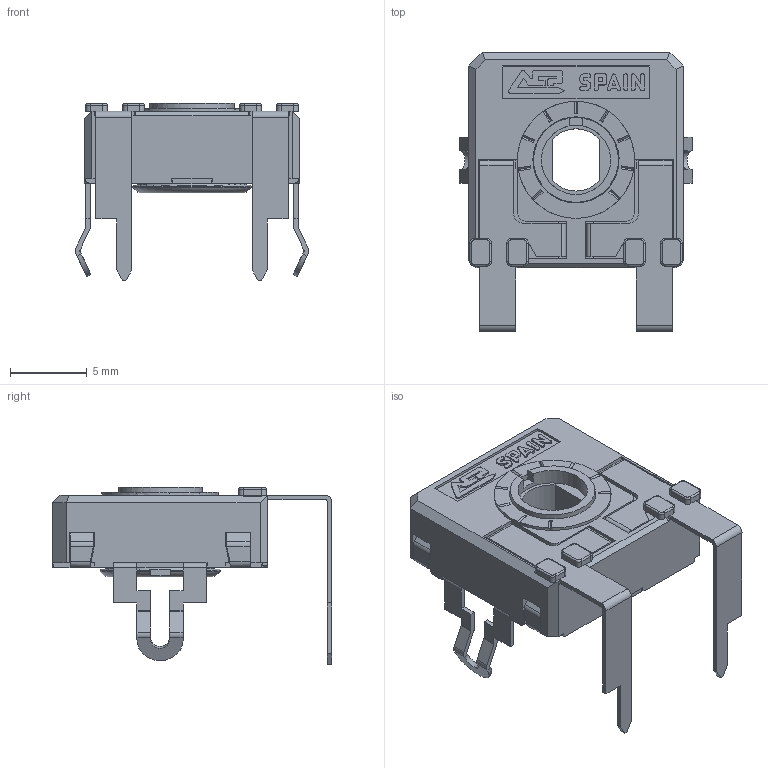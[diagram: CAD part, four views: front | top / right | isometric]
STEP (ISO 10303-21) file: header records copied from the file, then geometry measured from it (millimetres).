
FILE_DESCRIPTION(/* description */ (''),/* implementation_level */ '2;1');
FILE_NAME(/* name */ 'C:\Users\CEM\Desktop\ENVIAR\TRANSICION 3D CATALOGOS\RS14ZVD11.stp',/* time_stamp */ '2025-12-10T11:33:25+01:00',/* author */ ('CEM'),/* organization */ (''),/* preprocessor_version */ 'ST-DEVELOPER v16.13',/* originating_system */ 'Autodesk Inventor 2018',/* authorisation */ '');
FILE_SCHEMA (('AUTOMOTIVE_DESIGN { 1 0 10303 214 3 1 1 }'));
Length unit declared in the file: millimetre
Products named in the file (1): CARCASA CA14 PGA
Bounding box: 15.16 x 18.15 x 11.5 mm (x, y, z)
Volume: 547.2 mm3; surface area: 1588.9 mm2
Topology: 1 solids, 1 shells, 722 faces, 2045 edges, 1315 vertices
Faces by surface type: plane 526, cylinder 159, torus 23, bspline 8, cone 6
Full cylindrical faces by diameter (mm): 4.5 x1, 5.5 x1, 5.6 x1, 5.752 x1, 6.8 x1, 7.6 x1
Entity records: 23498 total; most frequent: CARTESIAN_POINT 4271, ORIENTED_EDGE 4056, DIRECTION 3838, EDGE_CURVE 2028, LINE 1592, VECTOR 1592, VERTEX_POINT 1308, AXIS2_PLACEMENT_3D 1123
